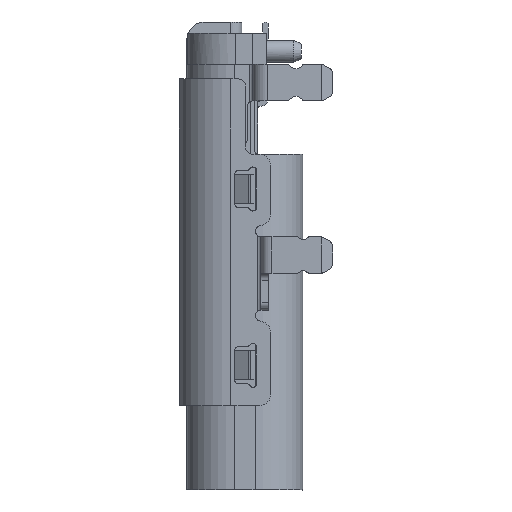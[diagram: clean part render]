
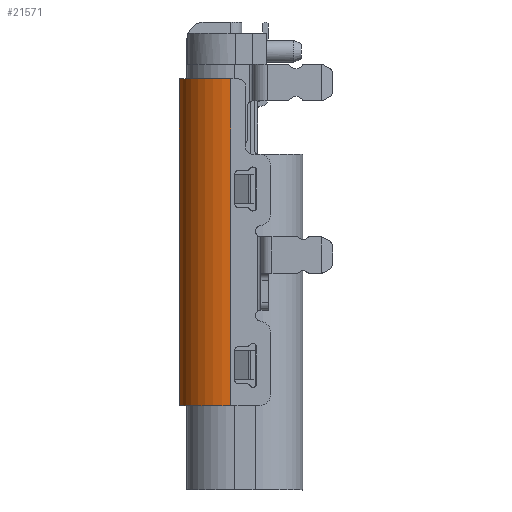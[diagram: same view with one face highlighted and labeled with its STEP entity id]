
A CAD part, left-side view. The second image highlights one B-rep face of the part: STEP entity #21571.
In plain terms, the highlighted cylindrical face has radius 1.4 mm (diameter 2.8 mm), a partial arc.
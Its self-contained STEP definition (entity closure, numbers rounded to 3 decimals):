
#3173 = DIRECTION ( 'NONE',  ( 0., 0., 1. ) ) ;
#16478 = VERTEX_POINT ( 'NONE', #50214 ) ;
#16621 = CIRCLE ( 'NONE', #36557, 1.4 ) ;
#18134 = EDGE_CURVE ( 'NONE', #76237, #75788, #76204, .T. ) ;
#19698 = AXIS2_PLACEMENT_3D ( 'NONE', #23542, #71888, #40705 ) ;
#21131 = CARTESIAN_POINT ( 'NONE',  ( -3.3, 0.38, 1.25 ) ) ;
#21571 = ADVANCED_FACE ( 'NONE', ( #53551 ), #53176, .T. ) ;
#23542 = CARTESIAN_POINT ( 'NONE',  ( -3.3, 0.38, 10.328 ) ) ;
#25724 = EDGE_CURVE ( 'NONE', #76237, #72065, #16621, .T. ) ;
#28513 = CARTESIAN_POINT ( 'NONE',  ( -3.3, 1.78, 1.25 ) ) ;
#29006 = DIRECTION ( 'NONE',  ( 0., 0., -1. ) ) ;
#33702 = VECTOR ( 'NONE', #29006, 1000. ) ;
#34009 = AXIS2_PLACEMENT_3D ( 'NONE', #21131, #3173, #68325 ) ;
#36525 = CIRCLE ( 'NONE', #34009, 1.4 ) ;
#36557 = AXIS2_PLACEMENT_3D ( 'NONE', #72765, #37291, #61075 ) ;
#37291 = DIRECTION ( 'NONE',  ( 0., 0., -1. ) ) ;
#39859 = CARTESIAN_POINT ( 'NONE',  ( -4.7, 0.38, 10.15 ) ) ;
#39915 = EDGE_CURVE ( 'NONE', #16478, #72065, #40977, .T. ) ;
#40705 = DIRECTION ( 'NONE',  ( 0., -1., 0. ) ) ;
#40977 = LINE ( 'NONE', #28513, #66698 ) ;
#41570 = CARTESIAN_POINT ( 'NONE',  ( -4.7, 0.38, 1.25 ) ) ;
#43267 = ORIENTED_EDGE ( 'NONE', *, *, #18134, .F. ) ;
#43280 = CARTESIAN_POINT ( 'NONE',  ( -3.3, 1.78, 10.15 ) ) ;
#46566 = CARTESIAN_POINT ( 'NONE',  ( -4.7, 0.38, 10.15 ) ) ;
#46702 = ORIENTED_EDGE ( 'NONE', *, *, #25724, .T. ) ;
#50214 = CARTESIAN_POINT ( 'NONE',  ( -3.3, 1.78, 1.25 ) ) ;
#52298 = DIRECTION ( 'NONE',  ( 0., 0., 1. ) ) ;
#53176 = CYLINDRICAL_SURFACE ( 'NONE', #19698, 1.4 ) ;
#53551 = FACE_OUTER_BOUND ( 'NONE', #59827, .T. ) ;
#54125 = ORIENTED_EDGE ( 'NONE', *, *, #72967, .T. ) ;
#59827 = EDGE_LOOP ( 'NONE', ( #54125, #43267, #46702, #71013 ) ) ;
#61075 = DIRECTION ( 'NONE',  ( -1., 0., 0. ) ) ;
#66698 = VECTOR ( 'NONE', #52298, 1000. ) ;
#68325 = DIRECTION ( 'NONE',  ( 0., 1., 0. ) ) ;
#71013 = ORIENTED_EDGE ( 'NONE', *, *, #39915, .F. ) ;
#71888 = DIRECTION ( 'NONE',  ( 0., 0., -1. ) ) ;
#72065 = VERTEX_POINT ( 'NONE', #43280 ) ;
#72765 = CARTESIAN_POINT ( 'NONE',  ( -3.3, 0.38, 10.15 ) ) ;
#72967 = EDGE_CURVE ( 'NONE', #16478, #75788, #36525, .T. ) ;
#75788 = VERTEX_POINT ( 'NONE', #41570 ) ;
#76204 = LINE ( 'NONE', #46566, #33702 ) ;
#76237 = VERTEX_POINT ( 'NONE', #39859 ) ;
